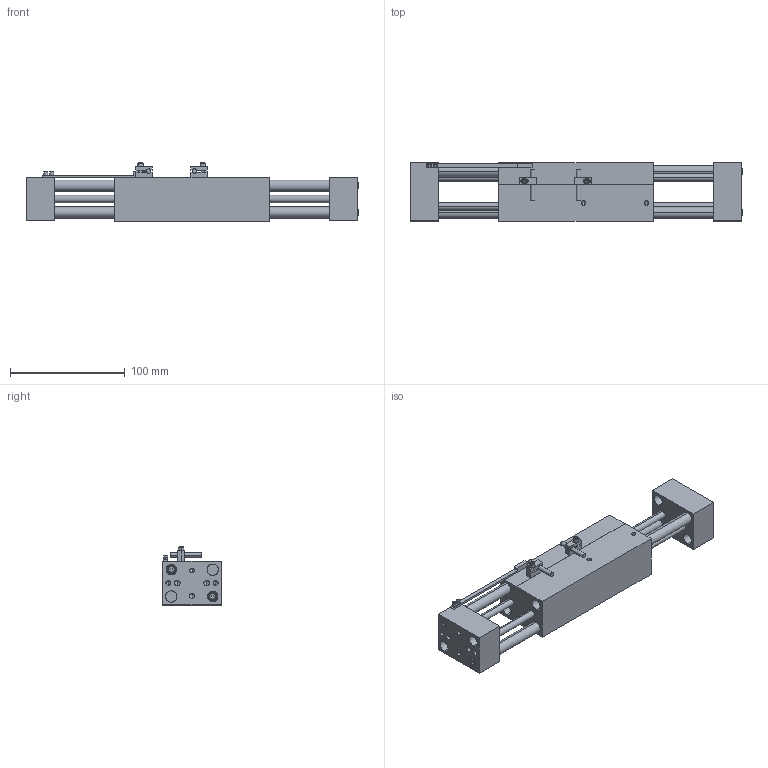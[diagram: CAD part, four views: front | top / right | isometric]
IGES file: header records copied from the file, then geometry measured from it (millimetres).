
Start section: SolidWorks IGES file using analytic representation for surfaces
Global section: file name: C:\Customer Projects\AGI Automation - Peter Farkas\agw-375-4\IGES\AGW-375-4X OPEN in MM.IGS; native system: SolidWorks 2010; preprocessor: SolidWorks 2010; author: Owner; date: 130822.190336; units: millimetre
Bounding box: 288.99 x 50.8 x 50.5 mm (x, y, z)
Surface area: 105369.7 mm2 (no closed solid volume)
Topology: 0 solids, 0 shells, 382 faces, 5514 edges, 5470 vertices
Faces by surface type: revolution 206, bspline 176
